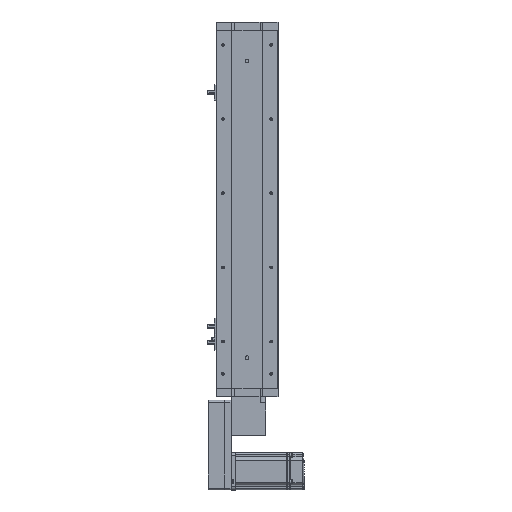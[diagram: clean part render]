
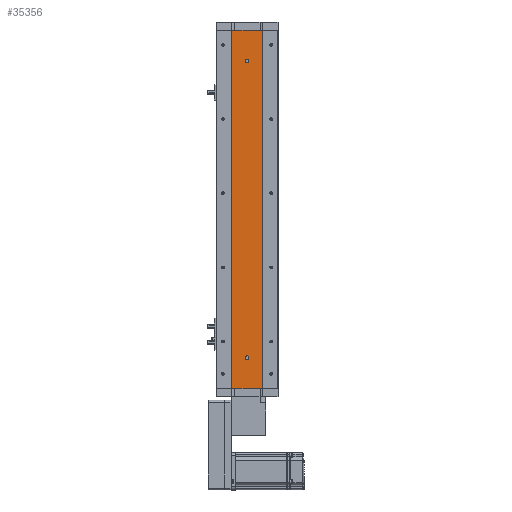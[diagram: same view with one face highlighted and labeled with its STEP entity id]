
A CAD part, left-side view. The second image highlights one B-rep face of the part: STEP entity #35356.
In plain terms, the highlighted planar face has unit normal (-1, 0, 0).
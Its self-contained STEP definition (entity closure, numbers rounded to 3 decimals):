
#340 = CARTESIAN_POINT ( 'NONE',  ( -18.926, 0., 50. ) ) ;
#1011 = VECTOR ( 'NONE', #11614, 1000. ) ;
#3391 = CARTESIAN_POINT ( 'NONE',  ( -18.926, 0., 527. ) ) ;
#4834 = VERTEX_POINT ( 'NONE', #51127 ) ;
#5253 = DIRECTION ( 'NONE',  ( 0., 0., 1. ) ) ;
#6465 = ORIENTED_EDGE ( 'NONE', *, *, #40861, .F. ) ;
#7171 = CARTESIAN_POINT ( 'NONE',  ( -18.926, 0., 530. ) ) ;
#8207 = CARTESIAN_POINT ( 'NONE',  ( -18.926, 24.785, 580. ) ) ;
#8425 = EDGE_CURVE ( 'NONE', #33077, #12976, #25652, .T. ) ;
#9146 = CARTESIAN_POINT ( 'NONE',  ( -18.926, 24.785, 580. ) ) ;
#11442 = EDGE_CURVE ( 'NONE', #57826, #45633, #51016, .T. ) ;
#11614 = DIRECTION ( 'NONE',  ( 0., -1., 0. ) ) ;
#12029 = DIRECTION ( 'NONE',  ( 0., 0., 1. ) ) ;
#12671 = ORIENTED_EDGE ( 'NONE', *, *, #15476, .F. ) ;
#12976 = VERTEX_POINT ( 'NONE', #24320 ) ;
#13041 = DIRECTION ( 'NONE',  ( 0., 0., -1. ) ) ;
#14810 = FACE_OUTER_BOUND ( 'NONE', #51962, .T. ) ;
#14887 = DIRECTION ( 'NONE',  ( 0., 0., -1. ) ) ;
#15476 = EDGE_CURVE ( 'NONE', #32299, #4834, #50472, .T. ) ;
#16296 = FACE_BOUND ( 'NONE', #28713, .T. ) ;
#16683 = VERTEX_POINT ( 'NONE', #41957 ) ;
#16802 = CARTESIAN_POINT ( 'NONE',  ( -18.926, -24.785, 0. ) ) ;
#18349 = EDGE_CURVE ( 'NONE', #33077, #57826, #47257, .T. ) ;
#19716 = CARTESIAN_POINT ( 'NONE',  ( -18.926, -24.785, 580. ) ) ;
#20720 = CARTESIAN_POINT ( 'NONE',  ( -18.926, 0., 530. ) ) ;
#24320 = CARTESIAN_POINT ( 'NONE',  ( -18.926, -24.785, 580. ) ) ;
#24653 = CIRCLE ( 'NONE', #53875, 3. ) ;
#25557 = DIRECTION ( 'NONE',  ( 0., 0., 1. ) ) ;
#25652 = LINE ( 'NONE', #9146, #62838 ) ;
#25720 = EDGE_CURVE ( 'NONE', #30682, #16683, #46889, .T. ) ;
#26646 = DIRECTION ( 'NONE',  ( -1., 0., 0. ) ) ;
#27612 = AXIS2_PLACEMENT_3D ( 'NONE', #7171, #41025, #12029 ) ;
#28713 = EDGE_LOOP ( 'NONE', ( #47310, #6465 ) ) ;
#30107 = ORIENTED_EDGE ( 'NONE', *, *, #18349, .T. ) ;
#30682 = VERTEX_POINT ( 'NONE', #32829 ) ;
#31814 = CIRCLE ( 'NONE', #27612, 3. ) ;
#32299 = VERTEX_POINT ( 'NONE', #3391 ) ;
#32829 = CARTESIAN_POINT ( 'NONE',  ( -18.926, 0., 53. ) ) ;
#33077 = VERTEX_POINT ( 'NONE', #46132 ) ;
#33337 = ORIENTED_EDGE ( 'NONE', *, *, #47070, .F. ) ;
#33353 = LINE ( 'NONE', #19716, #44723 ) ;
#34225 = DIRECTION ( 'NONE',  ( -1., 0., 0. ) ) ;
#34383 = VECTOR ( 'NONE', #61638, 1000. ) ;
#34561 = EDGE_LOOP ( 'NONE', ( #45705, #12671 ) ) ;
#35356 = ADVANCED_FACE ( 'NONE', ( #16296, #51877, #14810 ), #51327, .F. ) ;
#36381 = EDGE_CURVE ( 'NONE', #4834, #32299, #31814, .T. ) ;
#37249 = AXIS2_PLACEMENT_3D ( 'NONE', #8207, #42028, #13041 ) ;
#37454 = CARTESIAN_POINT ( 'NONE',  ( -18.926, 24.785, 580. ) ) ;
#38944 = AXIS2_PLACEMENT_3D ( 'NONE', #340, #34225, #5253 ) ;
#40861 = EDGE_CURVE ( 'NONE', #16683, #30682, #24653, .T. ) ;
#41025 = DIRECTION ( 'NONE',  ( -1., 0., 0. ) ) ;
#41957 = CARTESIAN_POINT ( 'NONE',  ( -18.926, 0., 47. ) ) ;
#42028 = DIRECTION ( 'NONE',  ( 1., 0., 0. ) ) ;
#42983 = DIRECTION ( 'NONE',  ( 0., -1., 0. ) ) ;
#44723 = VECTOR ( 'NONE', #14887, 1000. ) ;
#45472 = CARTESIAN_POINT ( 'NONE',  ( -18.926, 24.785, 0. ) ) ;
#45633 = VERTEX_POINT ( 'NONE', #16802 ) ;
#45705 = ORIENTED_EDGE ( 'NONE', *, *, #36381, .F. ) ;
#46132 = CARTESIAN_POINT ( 'NONE',  ( -18.926, 24.785, 580. ) ) ;
#46889 = CIRCLE ( 'NONE', #38944, 3. ) ;
#47070 = EDGE_CURVE ( 'NONE', #12976, #45633, #33353, .T. ) ;
#47257 = LINE ( 'NONE', #37454, #34383 ) ;
#47310 = ORIENTED_EDGE ( 'NONE', *, *, #25720, .F. ) ;
#49205 = ORIENTED_EDGE ( 'NONE', *, *, #8425, .F. ) ;
#50472 = CIRCLE ( 'NONE', #53958, 3. ) ;
#51016 = LINE ( 'NONE', #45472, #1011 ) ;
#51127 = CARTESIAN_POINT ( 'NONE',  ( -18.926, 0., 533. ) ) ;
#51327 = PLANE ( 'NONE',  #37249 ) ;
#51877 = FACE_BOUND ( 'NONE', #34561, .T. ) ;
#51962 = EDGE_LOOP ( 'NONE', ( #58990, #33337, #49205, #30107 ) ) ;
#53875 = AXIS2_PLACEMENT_3D ( 'NONE', #55677, #26646, #60612 ) ;
#53958 = AXIS2_PLACEMENT_3D ( 'NONE', #20720, #54595, #25557 ) ;
#54595 = DIRECTION ( 'NONE',  ( -1., 0., 0. ) ) ;
#55677 = CARTESIAN_POINT ( 'NONE',  ( -18.926, 0., 50. ) ) ;
#56878 = CARTESIAN_POINT ( 'NONE',  ( -18.926, 24.785, 0. ) ) ;
#57826 = VERTEX_POINT ( 'NONE', #56878 ) ;
#58990 = ORIENTED_EDGE ( 'NONE', *, *, #11442, .T. ) ;
#60612 = DIRECTION ( 'NONE',  ( 0., 0., 1. ) ) ;
#61638 = DIRECTION ( 'NONE',  ( 0., 0., -1. ) ) ;
#62838 = VECTOR ( 'NONE', #42983, 1000. ) ;
